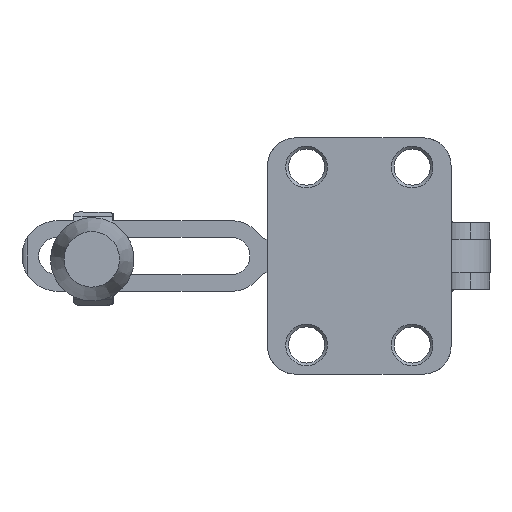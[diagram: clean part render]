
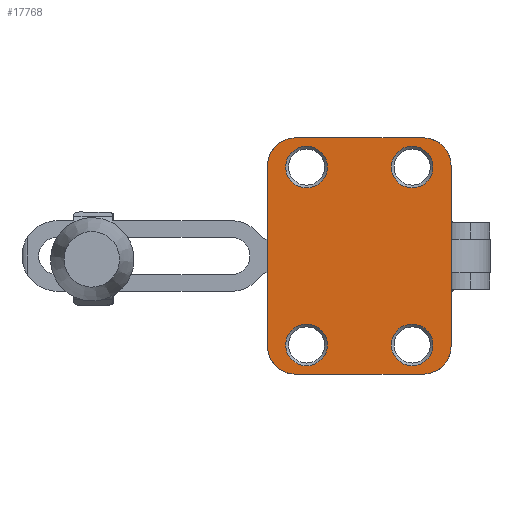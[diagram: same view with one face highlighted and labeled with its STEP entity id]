
A CAD part, front view. The second image highlights one B-rep face of the part: STEP entity #17768.
In plain terms, the highlighted planar face has unit normal (0, -1, 0).
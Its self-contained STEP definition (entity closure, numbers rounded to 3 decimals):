
#718=FACE_BOUND('',#3118,.T.);
#719=FACE_BOUND('',#3119,.T.);
#720=FACE_BOUND('',#3120,.T.);
#721=FACE_BOUND('',#3121,.T.);
#1157=PLANE('',#19356);
#2088=FACE_OUTER_BOUND('',#3117,.T.);
#3117=EDGE_LOOP('',(#15246,#15247,#15248,#15249,#15250,#15251,#15252,#15253));
#3118=EDGE_LOOP('',(#15254,#15255));
#3119=EDGE_LOOP('',(#15256,#15257));
#3120=EDGE_LOOP('',(#15258,#15259));
#3121=EDGE_LOOP('',(#15260,#15261));
#4480=LINE('',#60351,#5953);
#4483=LINE('',#60359,#5956);
#4487=LINE('',#60368,#5960);
#4489=LINE('',#60374,#5962);
#5953=VECTOR('',#22926,1000.);
#5956=VECTOR('',#22935,1000.);
#5960=VECTOR('',#22945,1000.);
#5962=VECTOR('',#22953,1000.);
#6799=CIRCLE('',#19076,3.75);
#6800=CIRCLE('',#19077,3.75);
#6803=CIRCLE('',#19081,3.75);
#6804=CIRCLE('',#19082,3.75);
#6807=CIRCLE('',#19086,3.75);
#6808=CIRCLE('',#19087,3.75);
#6811=CIRCLE('',#19091,3.75);
#6812=CIRCLE('',#19092,3.75);
#6899=CIRCLE('',#19345,5.);
#6900=CIRCLE('',#19348,5.);
#6901=CIRCLE('',#19351,5.);
#6902=CIRCLE('',#19354,5.);
#7880=VERTEX_POINT('',#52325);
#7881=VERTEX_POINT('',#52327);
#7884=VERTEX_POINT('',#52335);
#7885=VERTEX_POINT('',#52337);
#7888=VERTEX_POINT('',#52345);
#7889=VERTEX_POINT('',#52347);
#7892=VERTEX_POINT('',#52355);
#7893=VERTEX_POINT('',#52357);
#8402=VERTEX_POINT('',#60344);
#8403=VERTEX_POINT('',#60346);
#8404=VERTEX_POINT('',#60350);
#8405=VERTEX_POINT('',#60354);
#8406=VERTEX_POINT('',#60358);
#8407=VERTEX_POINT('',#60362);
#8408=VERTEX_POINT('',#60366);
#8409=VERTEX_POINT('',#60370);
#9998=EDGE_CURVE('',#7880,#7881,#6799,.T.);
#9999=EDGE_CURVE('',#7881,#7880,#6800,.T.);
#10003=EDGE_CURVE('',#7884,#7885,#6803,.T.);
#10004=EDGE_CURVE('',#7885,#7884,#6804,.T.);
#10008=EDGE_CURVE('',#7888,#7889,#6807,.T.);
#10009=EDGE_CURVE('',#7889,#7888,#6808,.T.);
#10013=EDGE_CURVE('',#7892,#7893,#6811,.T.);
#10014=EDGE_CURVE('',#7893,#7892,#6812,.T.);
#10770=EDGE_CURVE('',#8402,#8403,#6899,.T.);
#10772=EDGE_CURVE('',#8403,#8404,#4480,.T.);
#10775=EDGE_CURVE('',#8404,#8405,#6900,.T.);
#10776=EDGE_CURVE('',#8405,#8406,#4483,.T.);
#10778=EDGE_CURVE('',#8406,#8407,#6901,.T.);
#10781=EDGE_CURVE('',#8407,#8408,#4487,.T.);
#10783=EDGE_CURVE('',#8408,#8409,#6902,.T.);
#10784=EDGE_CURVE('',#8409,#8402,#4489,.T.);
#15246=ORIENTED_EDGE('',*,*,#10783,.F.);
#15247=ORIENTED_EDGE('',*,*,#10781,.F.);
#15248=ORIENTED_EDGE('',*,*,#10778,.F.);
#15249=ORIENTED_EDGE('',*,*,#10776,.F.);
#15250=ORIENTED_EDGE('',*,*,#10775,.F.);
#15251=ORIENTED_EDGE('',*,*,#10772,.F.);
#15252=ORIENTED_EDGE('',*,*,#10770,.F.);
#15253=ORIENTED_EDGE('',*,*,#10784,.F.);
#15254=ORIENTED_EDGE('',*,*,#9999,.F.);
#15255=ORIENTED_EDGE('',*,*,#9998,.F.);
#15256=ORIENTED_EDGE('',*,*,#10004,.F.);
#15257=ORIENTED_EDGE('',*,*,#10003,.F.);
#15258=ORIENTED_EDGE('',*,*,#10009,.F.);
#15259=ORIENTED_EDGE('',*,*,#10008,.F.);
#15260=ORIENTED_EDGE('',*,*,#10014,.F.);
#15261=ORIENTED_EDGE('',*,*,#10013,.F.);
#17768=ADVANCED_FACE('',(#2088,#718,#719,#720,#721),#1157,.F.);
#19076=AXIS2_PLACEMENT_3D('',#52328,#21923,#21924);
#19077=AXIS2_PLACEMENT_3D('',#52329,#21925,#21926);
#19081=AXIS2_PLACEMENT_3D('',#52338,#21934,#21935);
#19082=AXIS2_PLACEMENT_3D('',#52339,#21936,#21937);
#19086=AXIS2_PLACEMENT_3D('',#52348,#21945,#21946);
#19087=AXIS2_PLACEMENT_3D('',#52349,#21947,#21948);
#19091=AXIS2_PLACEMENT_3D('',#52358,#21956,#21957);
#19092=AXIS2_PLACEMENT_3D('',#52359,#21958,#21959);
#19345=AXIS2_PLACEMENT_3D('',#60347,#22921,#22922);
#19348=AXIS2_PLACEMENT_3D('',#60356,#22931,#22932);
#19351=AXIS2_PLACEMENT_3D('',#60363,#22939,#22940);
#19354=AXIS2_PLACEMENT_3D('',#60372,#22949,#22950);
#19356=AXIS2_PLACEMENT_3D('',#60375,#22954,#22955);
#21923=DIRECTION('center_axis',(0.,-1.,0.));
#21924=DIRECTION('ref_axis',(0.,0.,-1.));
#21925=DIRECTION('center_axis',(0.,-1.,0.));
#21926=DIRECTION('ref_axis',(0.,0.,-1.));
#21934=DIRECTION('center_axis',(0.,-1.,0.));
#21935=DIRECTION('ref_axis',(0.,0.,-1.));
#21936=DIRECTION('center_axis',(0.,-1.,0.));
#21937=DIRECTION('ref_axis',(0.,0.,-1.));
#21945=DIRECTION('center_axis',(0.,-1.,0.));
#21946=DIRECTION('ref_axis',(0.,0.,-1.));
#21947=DIRECTION('center_axis',(0.,-1.,0.));
#21948=DIRECTION('ref_axis',(0.,0.,-1.));
#21956=DIRECTION('center_axis',(0.,-1.,0.));
#21957=DIRECTION('ref_axis',(0.,0.,-1.));
#21958=DIRECTION('center_axis',(0.,-1.,0.));
#21959=DIRECTION('ref_axis',(0.,0.,-1.));
#22921=DIRECTION('center_axis',(0.,1.,0.));
#22922=DIRECTION('ref_axis',(0.,0.,-1.));
#22926=DIRECTION('',(0.,0.,1.));
#22931=DIRECTION('center_axis',(0.,1.,0.));
#22932=DIRECTION('ref_axis',(0.,0.,-1.));
#22935=DIRECTION('',(1.,0.,0.));
#22939=DIRECTION('center_axis',(0.,1.,0.));
#22940=DIRECTION('ref_axis',(0.,0.,-1.));
#22945=DIRECTION('',(0.,0.,-1.));
#22949=DIRECTION('center_axis',(0.,1.,0.));
#22950=DIRECTION('ref_axis',(0.,0.,-1.));
#22953=DIRECTION('',(-1.,0.,0.));
#22954=DIRECTION('center_axis',(0.,1.,0.));
#22955=DIRECTION('ref_axis',(0.,0.,1.));
#52325=CARTESIAN_POINT('',(1824.979,-4122.608,41.));
#52327=CARTESIAN_POINT('',(1824.979,-4122.608,33.5));
#52328=CARTESIAN_POINT('Origin',(1824.979,-4122.608,37.25));
#52329=CARTESIAN_POINT('Origin',(1824.979,-4122.608,37.25));
#52335=CARTESIAN_POINT('',(1805.979,-4122.608,41.));
#52337=CARTESIAN_POINT('',(1805.979,-4122.608,33.5));
#52338=CARTESIAN_POINT('Origin',(1805.979,-4122.608,37.25));
#52339=CARTESIAN_POINT('Origin',(1805.979,-4122.608,37.25));
#52345=CARTESIAN_POINT('',(1824.979,-4122.608,9.));
#52347=CARTESIAN_POINT('',(1824.979,-4122.608,1.5));
#52348=CARTESIAN_POINT('Origin',(1824.979,-4122.608,5.25));
#52349=CARTESIAN_POINT('Origin',(1824.979,-4122.608,5.25));
#52355=CARTESIAN_POINT('',(1805.979,-4122.608,9.));
#52357=CARTESIAN_POINT('',(1805.979,-4122.608,1.5));
#52358=CARTESIAN_POINT('Origin',(1805.979,-4122.608,5.25));
#52359=CARTESIAN_POINT('Origin',(1805.979,-4122.608,5.25));
#60344=CARTESIAN_POINT('',(1803.979,-4122.608,0.));
#60346=CARTESIAN_POINT('',(1798.979,-4122.608,5.));
#60347=CARTESIAN_POINT('Origin',(1803.979,-4122.608,5.));
#60350=CARTESIAN_POINT('',(1798.979,-4122.608,37.5));
#60351=CARTESIAN_POINT('',(1798.979,-4122.608,42.5));
#60354=CARTESIAN_POINT('',(1803.979,-4122.608,42.5));
#60356=CARTESIAN_POINT('Origin',(1803.979,-4122.608,37.5));
#60358=CARTESIAN_POINT('',(1826.979,-4122.608,42.5));
#60359=CARTESIAN_POINT('',(1818.175,-4122.608,42.5));
#60362=CARTESIAN_POINT('',(1831.979,-4122.608,37.5));
#60363=CARTESIAN_POINT('Origin',(1826.979,-4122.608,37.5));
#60366=CARTESIAN_POINT('',(1831.979,-4122.608,5.));
#60368=CARTESIAN_POINT('',(1831.979,-4122.608,42.5));
#60370=CARTESIAN_POINT('',(1826.979,-4122.608,0.));
#60372=CARTESIAN_POINT('Origin',(1826.979,-4122.608,5.));
#60374=CARTESIAN_POINT('',(1818.175,-4122.608,0.));
#60375=CARTESIAN_POINT('Origin',(1818.175,-4122.608,42.5));
